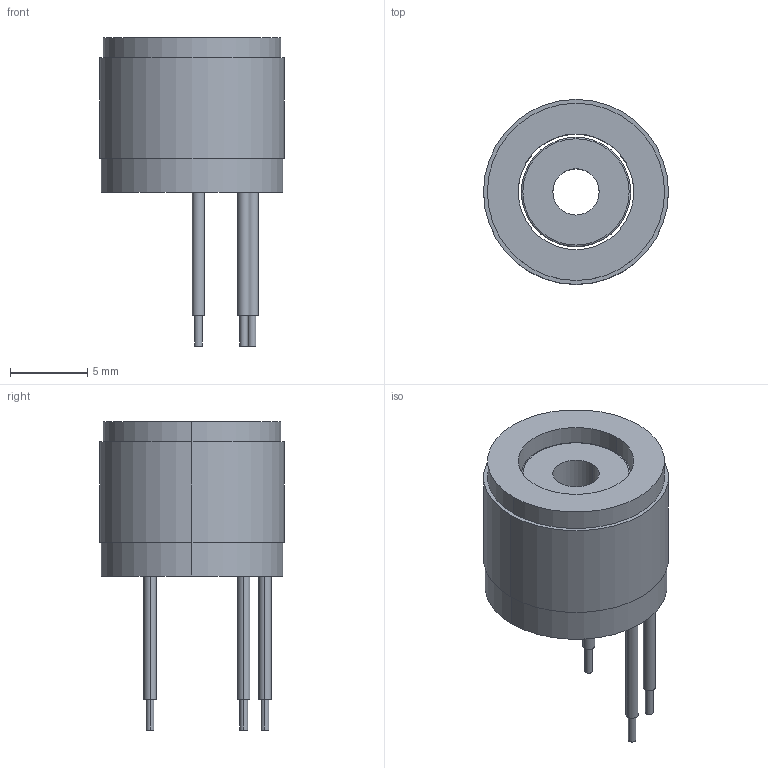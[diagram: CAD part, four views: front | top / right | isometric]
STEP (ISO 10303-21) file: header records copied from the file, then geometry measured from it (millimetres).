
FILE_DESCRIPTION (( 'STEP AP203' ), '1' );
FILE_NAME ('U1210无框力矩电机（更新）.STEP', '2026-07-08T05:37:25', ( 'Windows User' ), ( 'P R C' ), 'SwSTEP 2.0', 'SolidWorks 2023', '' );
FILE_SCHEMA (( 'CONFIG_CONTROL_DESIGN' ));
Length unit declared in the file: millimetre
Products named in the file (1): U1210无框力矩电机（更新）
Bounding box: 12 x 12 x 20 mm (x, y, z)
Volume: 913 mm3; surface area: 1105.2 mm2
Topology: 2 solids, 2 shells, 40 faces, 80 edges, 52 vertices
Faces by surface type: cylinder 24, plane 12, torus 4
Entity records: 1151 total; most frequent: DIRECTION 218, CARTESIAN_POINT 173, ORIENTED_EDGE 160, AXIS2_PLACEMENT_3D 97, EDGE_CURVE 80, CIRCLE 56, EDGE_LOOP 52, VERTEX_POINT 52
